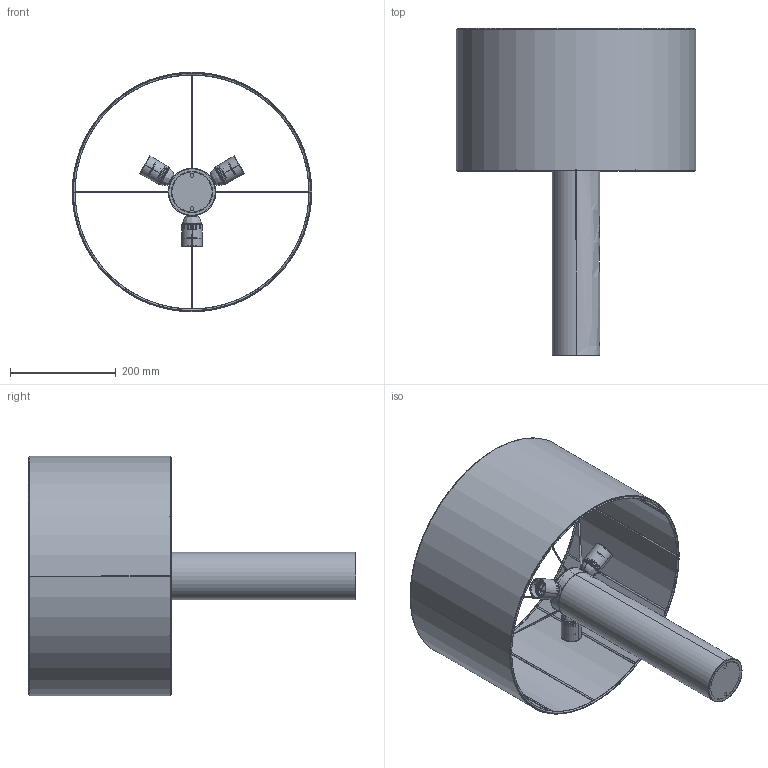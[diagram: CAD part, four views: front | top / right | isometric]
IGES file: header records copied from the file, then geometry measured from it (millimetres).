
Start section: SolidWorks IGES file using analytic representation for surfaces
Global section: file name: C:\SANTACOLE_PDM\Proyectos Catálogo\PROD-P13-044 -- MORAGAS\6_Técnico comercial\Moragas luminaria\Moragas.IGS; native system: SolidWorks 2019; preprocessor: SolidWorks 2019; author: aina.morell; date: 200402.094746; units: millimetre
Bounding box: 453 x 619 x 453 mm (x, y, z)
Surface area: 1146746.4 mm2 (no closed solid volume)
Topology: 0 solids, 0 shells, 1886 faces, 21235 edges, 21233 vertices
Faces by surface type: revolution 952, bspline 934
